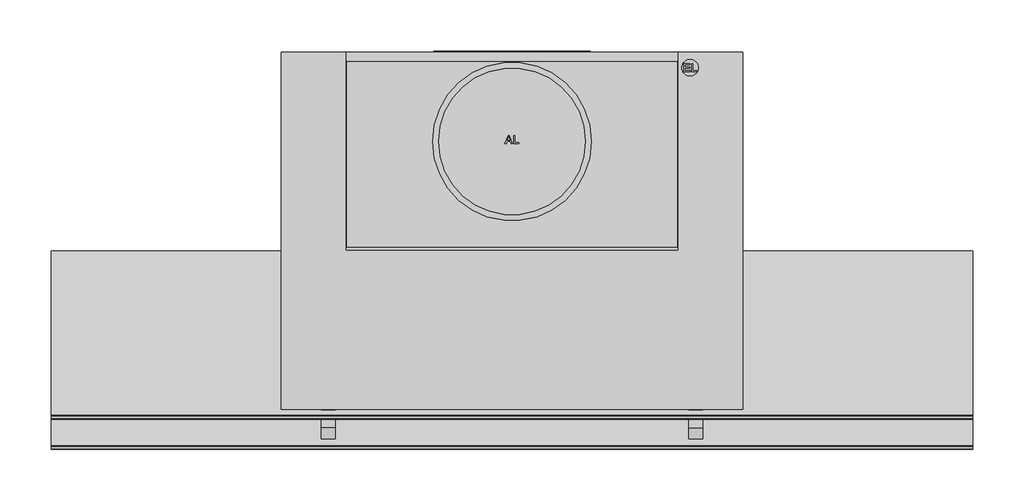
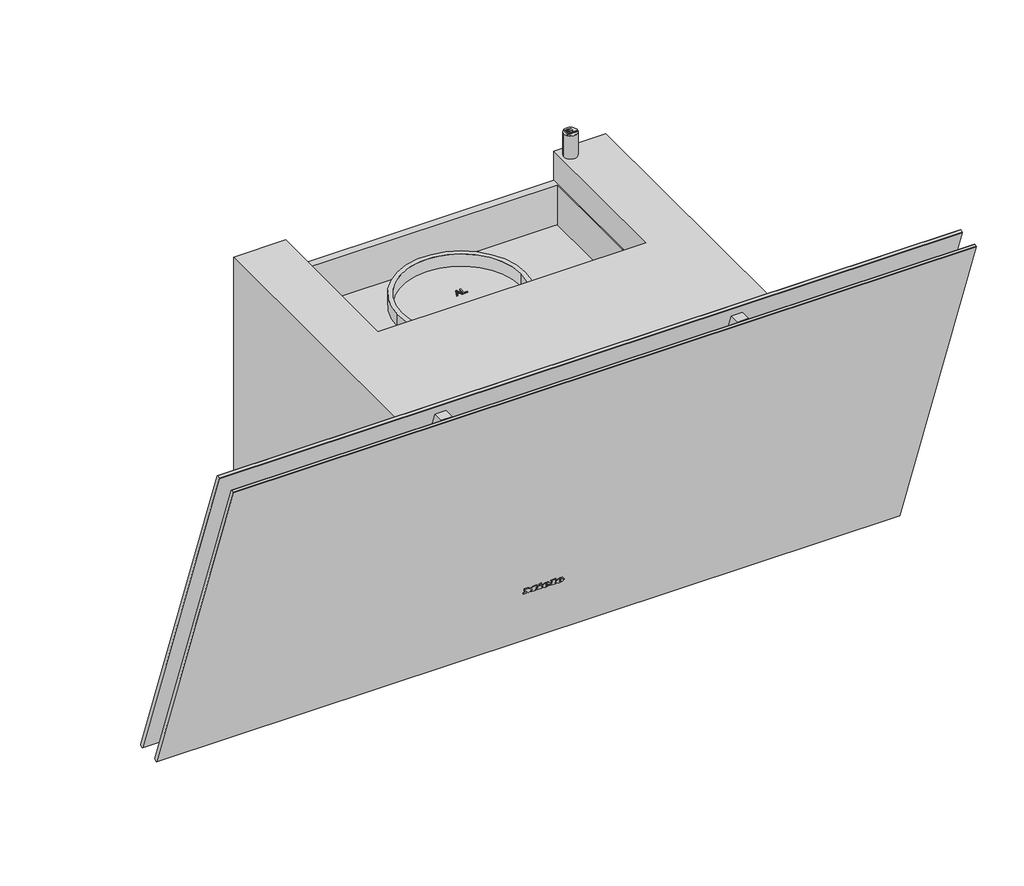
# Not in any storey: 1 proxy.
"""IFC4 building model written with IfcOpenShell, lengths in millimetres."""

import ifcopenshell
import ifcopenshell.guid

model = None  # the IFC model being written
_history = None  # IfcOwnerHistory: only IFC2X3 demands one
_inside = {}  # id of a spatial element -> (the spatial element, [elements in it])
_under = {}  # id of a project, library or spatial element -> (it, [spatial elements below it])
_declared = {}  # id of a project -> (the project, [libraries it declares])
_typed = {}  # id of a type object -> (the type object, [elements of that type])
_made_of = {}  # id of a material, layer set ... -> (it, [elements and type objects made of it])


def new_model(schema):
    """Start an empty IFC model of exactly this schema.

    Asked for "IFC4X3", IfcOpenShell would pick the latest addendum, in which some entities
    have other attributes; the version numbers below select the first issue.
    IFC2X3 requires an IfcOwnerHistory on every rooted entity: one is made here for all.
    """
    global model, _history
    if schema == "IFC4X3":
        model = ifcopenshell.file(schema_version=(4, 3, 0, 0))
    else:
        model = ifcopenshell.file(schema=schema)
    _inside.clear()
    _under.clear()
    _declared.clear()
    _typed.clear()
    _made_of.clear()
    _history = None
    if model.schema == "IFC2X3":
        org = make("IfcOrganization", Name="unknown")
        user = make(
            "IfcPersonAndOrganization",
            ThePerson=make("IfcPerson", FamilyName="unknown"),
            TheOrganization=org,
        )
        app = make(
            "IfcApplication",
            ApplicationDeveloper=org,
            Version="unknown",
            ApplicationFullName="unknown",
            ApplicationIdentifier="unknown",
        )
        _history = make(
            "IfcOwnerHistory",
            OwningUser=user,
            OwningApplication=app,
            ChangeAction="ADDED",
            CreationDate=0,
        )
    return model


def make(cls, **values):
    """One entity of the class cls with the attributes given. An attribute that is None is left unset."""
    return model.create_entity(
        cls, **{name: value for name, value in values.items() if value is not None}
    )


def rooted(cls, **values):
    """An entity with a GlobalId (a new one), such as an element, a storey or a relation."""
    return make(cls, GlobalId=ifcopenshell.guid.new(), OwnerHistory=_history, **values)


def si_unit(unit_type, name, prefix=None):
    """IfcSIUnit, for example si_unit("LENGTHUNIT", "METRE", prefix="MILLI")."""
    return make("IfcSIUnit", UnitType=unit_type, Prefix=prefix, Name=name)


def assignment(units):
    """IfcUnitAssignment: the units of a project."""
    return None if units is None else make("IfcUnitAssignment", Units=units)


def point(xyz):
    """IfcCartesianPoint."""
    return None if xyz is None else make("IfcCartesianPoint", Coordinates=xyz)


def direction(xyz):
    """IfcDirection."""
    return None if xyz is None else make("IfcDirection", DirectionRatios=xyz)


def frame(location, z_axis=None, x_axis=None):
    """IfcAxis2Placement3D, a coordinate frame: its origin and axes. An axis left out is left unset."""
    return make(
        "IfcAxis2Placement3D",
        Location=point(location),
        Axis=direction(z_axis),
        RefDirection=direction(x_axis),
    )


def frame_2d(location, x_axis=None):
    """IfcAxis2Placement2D, a coordinate frame in the plane: its origin and x axis."""
    return make(
        "IfcAxis2Placement2D", Location=point(location), RefDirection=direction(x_axis)
    )


def origin():
    """The frame at (0, 0, 0) with its axes left unset."""
    return frame((0.0, 0.0, 0.0))


def origin_with_axes():
    """The frame at (0, 0, 0) with the z axis (0, 0, 1) and the x axis (1, 0, 0) written out."""
    return frame((0.0, 0.0, 0.0), z_axis=(0.0, 0.0, 1.0), x_axis=(1.0, 0.0, 0.0))


def place(relative_to, where):
    """IfcLocalPlacement: puts the frame where relative to a parent placement (None: the world)."""
    return make(
        "IfcLocalPlacement", PlacementRelTo=relative_to, RelativePlacement=where
    )


def context(
    kind, dimensions, precision=None, world=None, true_north=None, identifier=None
):
    """IfcGeometricRepresentationContext, for example the 3D "Model" context."""
    return make(
        "IfcGeometricRepresentationContext",
        ContextIdentifier=identifier,
        ContextType=kind,
        CoordinateSpaceDimension=dimensions,
        Precision=precision,
        WorldCoordinateSystem=world,
        TrueNorth=true_north,
    )


def project(units=None, contexts=None):
    """IfcProject with its units and contexts."""
    return rooted(
        "IfcProject",
        Name="project",
        RepresentationContexts=contexts,
        UnitsInContext=assignment(units),
    )


def spatial(cls, under=None, at=None, **own):
    """A site, building, storey or space (cls), placed at a placement, below another one or the project."""
    s = rooted(cls, ObjectPlacement=at, **own)
    if under is not None:
        _under.setdefault(under.id(), (under, []))[1].append(s)
    return s


def polyline(points):
    """IfcPolyline through the points."""
    return make("IfcPolyline", Points=[point(p) for p in points])


def circle_curve(where, radius):
    """IfcCircle in the frame where."""
    return make("IfcCircle", Position=where, Radius=radius)


def ellipse_curve(where, semi_axis1, semi_axis2):
    """IfcEllipse in the frame where."""
    return make(
        "IfcEllipse", Position=where, SemiAxis1=semi_axis1, SemiAxis2=semi_axis2
    )


def trimmed(basis, trim1, trim2, sense, master):
    """IfcTrimmedCurve: the piece of a basis curve between two trims."""
    return make(
        "IfcTrimmedCurve",
        BasisCurve=basis,
        Trim1=trim1,
        Trim2=trim2,
        SenseAgreement=sense,
        MasterRepresentation=master,
    )


def segment(curve, same_sense, transition):
    """IfcCompositeCurveSegment."""
    return make(
        "IfcCompositeCurveSegment",
        Transition=transition,
        SameSense=same_sense,
        ParentCurve=curve,
    )


def composite_curve(segments, self_intersect=None):
    """IfcCompositeCurve: segments joined end to end."""
    return make("IfcCompositeCurve", Segments=segments, SelfIntersect=self_intersect)


def outline(outer, holes=None, kind="AREA"):
    """IfcArbitraryClosedProfileDef: a profile drawn as a closed curve; with holes, ...WithVoids."""
    if holes is None:
        return make("IfcArbitraryClosedProfileDef", ProfileType=kind, OuterCurve=outer)
    return make(
        "IfcArbitraryProfileDefWithVoids",
        ProfileType=kind,
        OuterCurve=outer,
        InnerCurves=holes,
    )


def extrude(swept, where, along, depth):
    """IfcExtrudedAreaSolid: the profile swept, set in the frame where, extruded along a direction by depth."""
    return make(
        "IfcExtrudedAreaSolid",
        SweptArea=swept,
        Position=where,
        ExtrudedDirection=direction(along),
        Depth=depth,
    )


def faces_of(points, faces, orient=None, outer=None):
    """IfcFace entities. A face is a list of loops; a loop is a list of indices into points, from 0.

    orient and outer hold one flag for each loop. By default every Orientation is true, the
    first loop of a face is its IfcFaceOuterBound and the others are IfcFaceBound.
    """
    made = []
    for i, loops in enumerate(faces):
        bounds = []
        for j, loop in enumerate(loops):
            is_outer = j == 0 if outer is None else outer[i][j]
            bounds.append(
                make(
                    "IfcFaceOuterBound" if is_outer else "IfcFaceBound",
                    Bound=make("IfcPolyLoop", Polygon=[points[k] for k in loop]),
                    Orientation=True if orient is None else orient[i][j],
                )
            )
        made.append(make("IfcFace", Bounds=bounds))
    return made


def faceted_brep(points, faces, orient=None, outer=None, voids=None):
    """IfcFacetedBrep: a solid bounded by flat faces; with voids (closed shells), ...WithVoids."""
    shared = [point(p) for p in points]
    hull = make("IfcClosedShell", CfsFaces=faces_of(shared, faces, orient, outer))
    if voids is None:
        return make("IfcFacetedBrep", Outer=hull)
    return make(
        "IfcFacetedBrepWithVoids",
        Outer=hull,
        Voids=[
            make(cls, CfsFaces=faces_of(shared, fs, o, b)) for cls, fs, o, b in voids
        ],
    )


def shape(context_of_items, identifier, shape_type, items):
    """IfcShapeRepresentation: the items that make up one representation, for example the "Body"."""
    return make(
        "IfcShapeRepresentation",
        ContextOfItems=context_of_items,
        RepresentationIdentifier=identifier,
        RepresentationType=shape_type,
        Items=items,
    )


def source(mapping_origin, context_of_items, identifier, shape_type, items):
    """IfcRepresentationMap: a shape defined once, which mapped items show again and again."""
    return make(
        "IfcRepresentationMap",
        MappingOrigin=mapping_origin,
        MappedRepresentation=shape(context_of_items, identifier, shape_type, items),
    )


def transform(
    local_origin,
    x_axis=None,
    y_axis=None,
    z_axis=None,
    scale=None,
    scale2=None,
    scale3=None,
    uniform=True,
):
    """IfcCartesianTransformationOperator3D, or its non-uniform kind. x_axis, y_axis, z_axis: its Axis1, 2, 3."""
    if uniform:
        return make(
            "IfcCartesianTransformationOperator3D",
            Axis1=direction(x_axis),
            Axis2=direction(y_axis),
            LocalOrigin=point(local_origin),
            Scale=scale,
            Axis3=direction(z_axis),
        )
    return make(
        "IfcCartesianTransformationOperator3DnonUniform",
        Axis1=direction(x_axis),
        Axis2=direction(y_axis),
        LocalOrigin=point(local_origin),
        Scale=scale,
        Axis3=direction(z_axis),
        Scale2=scale2,
        Scale3=scale3,
    )


def mapped(mapping_source, mapping_target):
    """IfcMappedItem: shows the shape of a source again, moved by a transform."""
    return make(
        "IfcMappedItem", MappingSource=mapping_source, MappingTarget=mapping_target
    )


def made_of(thing, what):
    """Note that an element or type object is made of a material, layer set ...; save() writes the relation."""
    if what is not None:
        _made_of.setdefault(what.id(), (what, []))[1].append(thing)
    return thing


def element(
    cls,
    number,
    at=None,
    inside=None,
    cuts=None,
    type_object=None,
    material=None,
    context=None,
    identifier="Body",
    shape_type=None,
    held_by="IfcProductDefinitionShape",
    body=None,
    shapes=None,
    **own,
):
    """One element of the class cls, such as IfcWall. Its Tag is "e" and its number.

    at: its placement. inside: the storey or other place that contains it. cuts: it is an
    opening in that element (IfcRelVoidsElement). A single representation is given by context,
    identifier, shape_type and body (its items); several are given by shapes. held_by: the class
    of the entity that holds the representations. save() writes the other relations.
    """
    e = rooted(cls, Tag="e%d" % number, ObjectPlacement=at, **own)
    if body is not None:
        shapes = [shape(context, identifier, shape_type, body)]
    if shapes is not None:
        e.Representation = make(held_by, Representations=shapes)
    if inside is not None:
        _inside.setdefault(inside.id(), (inside, []))[1].append(e)
    if cuts is not None:
        rooted(
            "IfcRelVoidsElement", RelatingBuildingElement=cuts, RelatedOpeningElement=e
        )
    if type_object is not None:
        _typed.setdefault(type_object.id(), (type_object, []))[1].append(e)
    return made_of(e, material)


def aggregate(whole, parts):
    """IfcRelAggregates: a whole, such as a stair, and the parts it consists of."""
    return rooted("IfcRelAggregates", RelatingObject=whole, RelatedObjects=parts)


def save(model, path):
    """Write the relations noted so far, then the file.

    IfcRelAggregates (storeys below a building ...), IfcRelContainedInSpatialStructure (elements
    in a storey), IfcRelDefinesByType, IfcRelAssociatesMaterial and IfcRelDeclares: one each for
    every whole, place, type object, material and project.
    """
    for whole, parts in _under.values():
        aggregate(whole, parts)
    for where, things in _inside.values():
        rooted(
            "IfcRelContainedInSpatialStructure",
            RelatedElements=things,
            RelatingStructure=where,
        )
    for kind, things in _typed.values():
        rooted("IfcRelDefinesByType", RelatedObjects=things, RelatingType=kind)
    for what, things in _made_of.values():
        rooted("IfcRelAssociatesMaterial", RelatedObjects=things, RelatingMaterial=what)
    for by, libraries in _declared.values():
        rooted("IfcRelDeclares", RelatingContext=by, RelatedDefinitions=libraries)
    model.write(path)


def plane_surface(at):
    """IfcPlane: the flat surface through the origin of the frame at, square to its z axis."""
    return make("IfcPlane", Position=at)


def cylinder_surface(at, radius):
    """IfcCylindricalSurface: all points at the distance radius from the z axis of the frame at."""
    return make("IfcCylindricalSurface", Position=at, Radius=radius)


def revolved_surface(curve, axis_point, axis_direction):
    """IfcSurfaceOfRevolution: the curve turned about the line through axis_point along axis_direction."""
    return make(
        "IfcSurfaceOfRevolution",
        SweptCurve=make("IfcArbitraryOpenProfileDef", ProfileType="CURVE", Curve=curve),
        AxisPosition=make("IfcAxis1Placement", Location=point(axis_point), Axis=direction(axis_direction)),
    )


def extruded_surface(curve, direction_of_extrusion, depth):
    """IfcSurfaceOfLinearExtrusion: the curve pushed along a direction by depth."""
    return make(
        "IfcSurfaceOfLinearExtrusion",
        SweptCurve=make("IfcArbitraryOpenProfileDef", ProfileType="CURVE", Curve=curve),
        ExtrudedDirection=direction(direction_of_extrusion),
        Depth=depth,
    )


def advanced_brep(points, edges, surfaces, faces):
    """IfcAdvancedBrep: a solid bounded by faces that lie on surfaces and meet in shared edges.

    An edge is (start, end): straight between two places in points (the first is 0);
    or (start, end, curve); or (start, end, curve, False) where it runs against its curve.
    A face is (place in surfaces, loops), or (place, loops, False) where it looks against
    its surface's normal. A loop lists edges by number (the first is 1), with a minus sign
    where the edge is run from its end to its start. The first loop is the outer one.
    """
    corners = [point(p) for p in points]
    vertices = [make("IfcVertexPoint", VertexGeometry=c) for c in corners]
    made = []
    for start, end, *more in edges:
        made.append(
            make(
                "IfcEdgeCurve",
                EdgeStart=vertices[start],
                EdgeEnd=vertices[end],
                EdgeGeometry=more[0] if more else make("IfcPolyline", Points=[corners[start], corners[end]]),
                SameSense=more[1] if len(more) > 1 else True,
            )
        )
    hull = []
    for where, loops, *sense in faces:
        bounds = []
        for j, loop in enumerate(loops):
            ring = [make("IfcOrientedEdge", EdgeElement=made[abs(k) - 1], Orientation=k > 0) for k in loop]
            bounds.append(
                make(
                    "IfcFaceOuterBound" if j == 0 else "IfcFaceBound",
                    Bound=make("IfcEdgeLoop", EdgeList=ring),
                    Orientation=True,
                )
            )
        hull.append(make("IfcAdvancedFace", Bounds=bounds, FaceSurface=surfaces[where], SameSense=sense[0] if sense else True))
    return make("IfcAdvancedBrep", Outer=make("IfcClosedShell", CfsFaces=hull))


def specialty_equipment_7b2512ea(model_context):
    return source(origin(), model_context, "Body", "SolidModel", [
        extrude(outline(polyline([(0.0, 0.0), (0.968, 0.0), (0.968, 5.352), (0.0, 5.352), (0.0, 6.696), (3.52, 6.696), (3.52, 5.352), (2.56, 5.352), (2.56, 1.9488753), (6.136, 6.696), (9.728, 1.8807777), (9.728, 5.352), (8.744, 5.352), (8.744, 6.696), (15.128, 6.696), (15.128, 5.352), (14.112, 5.352), (14.112, 0.0), (15.128, 0.0), (15.128, -1.304), (10.256, -1.304), (7.92, 1.696), (5.576, -1.304), (0.0, -1.304), (0.0, 0.0)])), frame((-24.271984, -261.1380975, 82.2921818), z_axis=(0.0, 0.9396926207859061, 0.34202014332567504), x_axis=(1.0, 0.0, 0.0)), (0.0, 0.0, 1.0), 1.0),
        extrude(outline(polyline([(0.0, 0.0), (0.96, 0.0), (0.96, 5.352), (0.0, 5.352), (0.0, 6.696), (6.488, 6.696), (6.488, 5.352), (5.504, 5.352), (5.504, -1.304), (0.0, -1.304), (0.0, 0.0)])), frame((8.192016, -261.1380975, 82.2921818), z_axis=(0.0, 0.9396926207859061, 0.34202014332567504), x_axis=(1.0, 0.0, 0.0)), (0.0, 0.0, 1.0), 1.0),
        extrude(outline(polyline([(0.0, 0.0), (1.4315306, 0.0), (1.4390414, -2.9920869), (0.0109086, -2.9993294), (0.0, 0.0)])), frame((-6.351984, -261.4226582, 83.074006), z_axis=(0.0, 0.9396926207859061, 0.342020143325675), x_axis=(0.42472021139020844, 0.30963927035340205, -0.8507269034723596)), (0.0, 0.0, 1.0), 1.0),
        extrude(outline(polyline([(0.4933907, 2.4141097), (1.7898156, 3.022309), (2.1941493, 2.1604399), (5.1636141, 3.5535222), (4.7592805, 4.4153913), (5.9760369, 4.9862153), (8.6568708, -0.728194), (7.4401145, -1.299018), (7.0459741, -0.4588767), (2.7800843, -2.4601583), (0.4933907, 2.4141097)])), frame((-6.351984, -261.4226582, 83.074006), z_axis=(0.0, 0.9396926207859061, 0.342020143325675), x_axis=(0.42472021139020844, 0.30963927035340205, -0.8507269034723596)), (0.0, 0.0, 1.0), 1.0),
        advanced_brep(
        [(2.392016, -259.4964008, 77.7816572), (2.392016, -259.7727531, 78.5409288), (7.744016, -259.7727531, 78.5409288), (-1.567984, -259.7727531, 78.5409288), (0.632016, -258.8479306, 76.0), (7.608016, -259.4964008, 77.7816572), (5.192016, -259.4964008, 77.7816572), (3.288016, -259.1899507, 76.9396926), (2.392016, -260.1229817, 79.5031741), (2.392016, -260.4212233, 80.3225861), (3.760016, -260.4212233, 80.3225861), (3.760016, -260.1229817, 79.5031741), (2.392016, -258.5567082, 78.1236774), (3.288016, -258.2502581, 77.2817128), (5.192016, -258.5567082, 78.1236774), (7.608016, -258.5567082, 78.1236774), (0.632016, -257.908238, 76.3420201), (-1.567984, -258.8330604, 78.882949), (7.744016, -258.8330604, 78.882949), (2.392016, -258.8330604, 78.882949), (2.392016, -259.1832891, 79.8451942), (3.760016, -259.1832891, 79.8451942), (3.760016, -259.4815306, 80.6646062), (2.392016, -259.4815306, 80.6646062)],
        [
            (0, 1),
            (1, 2),
            (2, 3, ellipse_curve(frame((3.088016, -259.7727531, 78.5409288), z_axis=(0.0, -0.9396926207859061, -0.34202014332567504), x_axis=(-1.0, 0.0, 0.0)), 4.656, 3.848)),
            (3, 4, circle_curve(frame((1.5280596, -259.8657825, 78.7965252), z_axis=(0.0, -0.9396926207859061, -0.34202014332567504), x_axis=(0.0, 0.34202014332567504, -0.9396926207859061)), 3.1079688)),
            (4, 5, circle_curve(frame((2.9948096, -260.5881291, 80.7811561), z_axis=(0.0, -0.9396926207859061, -0.34202014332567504), x_axis=(0.0, 0.34202014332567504, -0.9396926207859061)), 5.6098607)),
            (5, 6),
            (6, 7, circle_curve(frame((3.6790748, -259.7508638, 78.4807885), z_axis=(0.0, 0.9396926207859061, 0.34202014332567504), x_axis=(0.0, 0.34202014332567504, -0.9396926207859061)), 1.6859795)),
            (7, 0, circle_curve(frame((3.288016, -259.4964008, 77.7816572), z_axis=(0.0, 0.9396926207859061, 0.34202014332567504), x_axis=(0.0, 0.34202014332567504, -0.9396926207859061)), 0.896)),
            (8, 9),
            (9, 10, circle_curve(frame((3.076016, -260.4212233, 80.3225861), z_axis=(0.0, 0.9396926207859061, 0.34202014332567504), x_axis=(0.0, 0.34202014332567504, -0.9396926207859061)), 0.684)),
            (10, 11),
            (11, 8),
            (12, 13, circle_curve(frame((3.288016, -258.5567082, 78.1236774), z_axis=(0.0, -0.9396926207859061, -0.34202014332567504), x_axis=(0.0, 0.34202014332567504, -0.9396926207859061)), 0.896)),
            (13, 14, circle_curve(frame((3.6790748, -258.8111712, 78.8228087), z_axis=(0.0, -0.9396926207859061, -0.34202014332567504), x_axis=(0.0, 0.34202014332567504, -0.9396926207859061)), 1.6859795)),
            (14, 15),
            (15, 16, circle_curve(frame((2.9948096, -259.6484365, 81.1231762), z_axis=(0.0, 0.9396926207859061, 0.34202014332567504), x_axis=(0.0, 0.34202014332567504, -0.9396926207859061)), 5.6098607)),
            (16, 17, circle_curve(frame((1.5280596, -258.9260899, 79.1385454), z_axis=(0.0, 0.9396926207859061, 0.34202014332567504), x_axis=(0.0, 0.34202014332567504, -0.9396926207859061)), 3.1079688)),
            (17, 18, ellipse_curve(frame((3.088016, -258.8330604, 78.882949), z_axis=(0.0, 0.9396926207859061, 0.34202014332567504), x_axis=(-1.0, 0.0, 0.0)), 4.656, 3.848)),
            (18, 19),
            (19, 12),
            (20, 21),
            (21, 22),
            (22, 23, circle_curve(frame((3.076016, -259.4815306, 80.6646062), z_axis=(0.0, -0.9396926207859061, -0.34202014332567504), x_axis=(0.0, 0.34202014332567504, -0.9396926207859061)), 0.684)),
            (23, 20),
            (0, 12),
            (19, 1),
            (18, 2),
            (5, 15),
            (14, 6),
            (17, 3),
            (13, 7),
            (16, 4),
            (8, 20),
            (23, 9),
            (22, 10),
            (21, 11),
        ],
        [
            plane_surface(frame((2.392016, -259.7727531, 78.5409288), z_axis=(0.0, -0.9396926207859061, -0.34202014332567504), x_axis=(0.0, -0.34202014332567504, 0.9396926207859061))),
            plane_surface(frame((2.392016, -258.8330604, 78.882949), z_axis=(0.0, 0.9396926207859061, 0.34202014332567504), x_axis=(0.0, 0.34202014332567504, -0.9396926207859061))),
            plane_surface(frame((2.392016, -259.4964008, 77.7816572), z_axis=(1.0, 0.0, 0.0), x_axis=(0.0, 0.9396926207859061, 0.34202014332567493))),
            plane_surface(frame((2.392016, -259.7727531, 78.5409288), z_axis=(0.0, 0.34202014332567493, -0.9396926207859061), x_axis=(0.0, 0.9396926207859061, 0.34202014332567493))),
            plane_surface(frame((7.608016, -259.4964008, 77.7816572), z_axis=(0.0, -0.34202014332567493, 0.9396926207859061), x_axis=(0.0, 0.9396926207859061, 0.34202014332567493))),
            extruded_surface(trimmed(ellipse_curve(frame((3.088016, -257.8933678, 79.2249691), z_axis=(0.0, -0.9396926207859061, -0.34202014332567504), x_axis=(-1.0, 0.0, 0.0)), 4.656, 3.848), [point((7.744016, -257.8933678, 79.2249691))], [point((-1.567984, -257.8933678, 79.2249691))], True, "CARTESIAN"), (0.0, -0.9396926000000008, -0.34202009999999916), 0.9999999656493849),
            revolved_surface(polyline([(3.6790748, -258.2345321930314, 77.23850622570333), (3.6790748, -259.1742248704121, 76.89648606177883)]), (3.6790748, -258.8111712, 78.8228087), (0.0, 0.9396926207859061, 0.34202014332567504)),
            revolved_surface(polyline([(3.288016, -258.25025810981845, 77.28171282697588), (3.288016, -259.1899507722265, 76.93969266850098)]), (3.288016, -258.5567082, 78.1236774), (0.0, 0.9396926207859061, 0.34202014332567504)),
            cylinder_surface(frame((1.5280596, -258.9260899, 79.1385454), z_axis=(0.0, -0.9396926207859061, -0.34202014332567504), x_axis=(0.0, 0.34202014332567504, -0.9396926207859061)), 3.1079688),
            cylinder_surface(frame((2.9948096, -259.6484365, 81.1231762), z_axis=(0.0, -0.9396926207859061, -0.34202014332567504), x_axis=(0.0, 0.34202014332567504, -0.9396926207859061)), 5.6098607),
            plane_surface(frame((2.392016, -260.1229817, 79.5031741), z_axis=(1.0, 0.0, 0.0), x_axis=(0.0, 0.9396926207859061, 0.34202014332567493))),
            revolved_surface(polyline([(3.076016, -259.2475888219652, 80.02185644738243), (3.076016, -260.1872814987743, 79.67983628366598)]), (3.076016, -259.4815306, 80.6646062), (0.0, 0.9396926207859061, 0.34202014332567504)),
            plane_surface(frame((3.760016, -260.4212233, 80.3225861), z_axis=(-1.0, 0.0, 0.0), x_axis=(0.0, 0.9396926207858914, 0.3420201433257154))),
            plane_surface(frame((3.760016, -260.1229817, 79.5031741), z_axis=(0.0, -0.34202014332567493, 0.9396926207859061), x_axis=(0.0, 0.9396926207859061, 0.34202014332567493))),
        ],
        [
            (0, [[1, 2, 3, 4, 5, 6, 7, 8], [9, 10, 11, 12]]),
            (1, [[13, 14, 15, 16, 17, 18, 19, 20], [21, 22, 23, 24]]),
            (2, [[-1, 25, -20, 26]]),
            (3, [[-2, -26, -19, 27]]),
            (4, [[-6, 28, -15, 29]]),
            (5, [[-3, -27, -18, 30]]),
            (6, [[-7, -29, -14, 31]]),
            (7, [[-8, -31, -13, -25]]),
            (8, [[-4, -30, -17, 32]]),
            (9, [[-5, -32, -16, -28]]),
            (10, [[-9, 33, -24, 34]]),
            (11, [[-10, -34, -23, 35]]),
            (12, [[-11, -35, -22, 36]]),
            (13, [[-12, -36, -21, -33]]),
        ],
    ),
        advanced_brep(
        [(19.088016, -259.4964008, 77.7816572), (19.088016, -259.7727531, 78.5409288), (24.440016, -259.7727531, 78.5409288), (15.128016, -259.7727531, 78.5409288), (17.328016, -258.8479306, 76.0), (24.304016, -259.4964008, 77.7816572), (21.888016, -259.4964008, 77.7816572), (19.984016, -259.1899507, 76.9396926), (19.088016, -260.1229817, 79.5031741), (19.088016, -260.4212233, 80.3225861), (20.456016, -260.4212233, 80.3225861), (20.456016, -260.1229817, 79.5031741), (19.088016, -258.5567082, 78.1236774), (19.984016, -258.2502581, 77.2817128), (21.888016, -258.5567082, 78.1236774), (24.304016, -258.5567082, 78.1236774), (17.328016, -257.908238, 76.3420201), (15.128016, -258.8330604, 78.882949), (24.440016, -258.8330604, 78.882949), (19.088016, -258.8330604, 78.882949), (19.088016, -259.1832891, 79.8451942), (20.456016, -259.1832891, 79.8451942), (20.456016, -259.4815306, 80.6646062), (19.088016, -259.4815306, 80.6646062)],
        [
            (0, 1),
            (1, 2),
            (2, 3, ellipse_curve(frame((19.784016, -259.7727531, 78.5409288), z_axis=(0.0, -0.9396926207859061, -0.34202014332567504), x_axis=(-1.0, 0.0, 0.0)), 4.656, 3.848)),
            (3, 4, circle_curve(frame((18.2240596, -259.8657825, 78.7965252), z_axis=(0.0, -0.9396926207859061, -0.34202014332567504), x_axis=(0.0, 0.34202014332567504, -0.9396926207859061)), 3.1079688)),
            (4, 5, circle_curve(frame((19.6908096, -260.5881291, 80.7811561), z_axis=(0.0, -0.9396926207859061, -0.34202014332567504), x_axis=(0.0, 0.34202014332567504, -0.9396926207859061)), 5.6098607)),
            (5, 6),
            (6, 7, circle_curve(frame((20.3750748, -259.7508638, 78.4807885), z_axis=(0.0, 0.9396926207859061, 0.34202014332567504), x_axis=(0.0, 0.34202014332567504, -0.9396926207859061)), 1.6859795)),
            (7, 0, circle_curve(frame((19.984016, -259.4964008, 77.7816572), z_axis=(0.0, 0.9396926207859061, 0.34202014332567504), x_axis=(0.0, 0.34202014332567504, -0.9396926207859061)), 0.896)),
            (8, 9),
            (9, 10, circle_curve(frame((19.772016, -260.4212233, 80.3225861), z_axis=(0.0, 0.9396926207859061, 0.34202014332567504), x_axis=(0.0, 0.34202014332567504, -0.9396926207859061)), 0.684)),
            (10, 11),
            (11, 8),
            (12, 13, circle_curve(frame((19.984016, -258.5567082, 78.1236774), z_axis=(0.0, -0.9396926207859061, -0.34202014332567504), x_axis=(0.0, 0.34202014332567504, -0.9396926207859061)), 0.896)),
            (13, 14, circle_curve(frame((20.3750748, -258.8111712, 78.8228087), z_axis=(0.0, -0.9396926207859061, -0.34202014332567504), x_axis=(0.0, 0.34202014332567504, -0.9396926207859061)), 1.6859795)),
            (14, 15),
            (15, 16, circle_curve(frame((19.6908096, -259.6484365, 81.1231762), z_axis=(0.0, 0.9396926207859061, 0.34202014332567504), x_axis=(0.0, 0.34202014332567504, -0.9396926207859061)), 5.6098607)),
            (16, 17, circle_curve(frame((18.2240596, -258.9260899, 79.1385454), z_axis=(0.0, 0.9396926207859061, 0.34202014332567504), x_axis=(0.0, 0.34202014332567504, -0.9396926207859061)), 3.1079688)),
            (17, 18, ellipse_curve(frame((19.784016, -258.8330604, 78.882949), z_axis=(0.0, 0.9396926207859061, 0.34202014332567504), x_axis=(-1.0, 0.0, 0.0)), 4.656, 3.848)),
            (18, 19),
            (19, 12),
            (20, 21),
            (21, 22),
            (22, 23, circle_curve(frame((19.772016, -259.4815306, 80.6646062), z_axis=(0.0, -0.9396926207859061, -0.34202014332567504), x_axis=(0.0, 0.34202014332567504, -0.9396926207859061)), 0.684)),
            (23, 20),
            (0, 12),
            (19, 1),
            (18, 2),
            (5, 15),
            (14, 6),
            (17, 3),
            (13, 7),
            (16, 4),
            (8, 20),
            (23, 9),
            (22, 10),
            (21, 11),
        ],
        [
            plane_surface(frame((19.088016, -259.7727531, 78.5409288), z_axis=(0.0, -0.9396926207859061, -0.34202014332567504), x_axis=(0.0, -0.34202014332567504, 0.9396926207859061))),
            plane_surface(frame((19.088016, -258.8330604, 78.882949), z_axis=(0.0, 0.9396926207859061, 0.34202014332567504), x_axis=(0.0, 0.34202014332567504, -0.9396926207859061))),
            plane_surface(frame((19.088016, -259.4964008, 77.7816572), z_axis=(1.0, 0.0, 0.0), x_axis=(0.0, 0.9396926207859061, 0.34202014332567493))),
            plane_surface(frame((19.088016, -259.7727531, 78.5409288), z_axis=(0.0, 0.34202014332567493, -0.9396926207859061), x_axis=(0.0, 0.9396926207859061, 0.34202014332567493))),
            plane_surface(frame((24.304016, -259.4964008, 77.7816572), z_axis=(0.0, -0.34202014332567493, 0.9396926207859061), x_axis=(0.0, 0.9396926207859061, 0.34202014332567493))),
            extruded_surface(trimmed(ellipse_curve(frame((19.784016, -257.8933678, 79.2249691), z_axis=(0.0, -0.9396926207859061, -0.34202014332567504), x_axis=(-1.0, 0.0, 0.0)), 4.656, 3.848), [point((24.440016, -257.8933678, 79.2249691))], [point((15.128016, -257.8933678, 79.2249691))], True, "CARTESIAN"), (0.0, -0.9396926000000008, -0.34202009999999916), 0.9999999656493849),
            revolved_surface(polyline([(20.3750748, -258.2345321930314, 77.23850622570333), (20.3750748, -259.1742248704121, 76.89648606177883)]), (20.3750748, -258.8111712, 78.8228087), (0.0, 0.9396926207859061, 0.34202014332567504)),
            revolved_surface(polyline([(19.984016, -258.25025810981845, 77.28171282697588), (19.984016, -259.1899507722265, 76.93969266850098)]), (19.984016, -258.5567082, 78.1236774), (0.0, 0.9396926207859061, 0.34202014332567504)),
            cylinder_surface(frame((18.2240596, -258.9260899, 79.1385454), z_axis=(0.0, -0.9396926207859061, -0.34202014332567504), x_axis=(0.0, 0.34202014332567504, -0.9396926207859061)), 3.1079688),
            cylinder_surface(frame((19.6908096, -259.6484365, 81.1231762), z_axis=(0.0, -0.9396926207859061, -0.34202014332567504), x_axis=(0.0, 0.34202014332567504, -0.9396926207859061)), 5.6098607),
            plane_surface(frame((19.088016, -260.1229817, 79.5031741), z_axis=(1.0, 0.0, 0.0), x_axis=(0.0, 0.9396926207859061, 0.34202014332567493))),
            revolved_surface(polyline([(19.772016, -259.2475888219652, 80.02185644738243), (19.772016, -260.1872814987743, 79.67983628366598)]), (19.772016, -259.4815306, 80.6646062), (0.0, 0.9396926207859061, 0.34202014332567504)),
            plane_surface(frame((20.456016, -260.4212233, 80.3225861), z_axis=(-1.0, 0.0, 0.0), x_axis=(0.0, 0.9396926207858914, 0.3420201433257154))),
            plane_surface(frame((20.456016, -260.1229817, 79.5031741), z_axis=(0.0, -0.34202014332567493, 0.9396926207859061), x_axis=(0.0, 0.9396926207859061, 0.34202014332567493))),
        ],
        [
            (0, [[1, 2, 3, 4, 5, 6, 7, 8], [9, 10, 11, 12]]),
            (1, [[13, 14, 15, 16, 17, 18, 19, 20], [21, 22, 23, 24]]),
            (2, [[-1, 25, -20, 26]]),
            (3, [[-2, -26, -19, 27]]),
            (4, [[-6, 28, -15, 29]]),
            (5, [[-3, -27, -18, 30]]),
            (6, [[-7, -29, -14, 31]]),
            (7, [[-8, -31, -13, -25]]),
            (8, [[-4, -30, -17, 32]]),
            (9, [[-5, -32, -16, -28]]),
            (10, [[-9, 33, -24, 34]]),
            (11, [[-10, -34, -23, 35]]),
            (12, [[-11, -35, -22, 36]]),
            (13, [[-12, -36, -21, -33]]),
        ],
    ),
        advanced_brep(
        [(-198.5, -231.2422284, 80.5173231), (-198.5, -240.9843308, 107.2835295), (-198.5, -235.8312261, 109.4708926), (-198.5, -225.8887113, 82.1540576), (-198.5, -250.514978, 76.8365225), (-198.5, -258.1140866, 97.7149017), (-198.5, -258.4754112, 96.7430581), (-198.5, -251.4164577, 77.3487429), (-198.5, -254.9459345, 87.0459005), (-198.5, -230.9198317, 95.7906867)],
        [
            (0, 1, circle_curve(frame((-198.5, -236.1132796, 93.9004263), z_axis=(0.0, 0.9396926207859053, 0.3420201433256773), x_axis=(0.0, -0.3420201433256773, 0.9396926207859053)), 14.2420009)),
            (1, 2),
            (2, 3, circle_curve(frame((-198.5, -230.8599687, 95.8124751), z_axis=(0.0, -0.9396926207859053, -0.3420201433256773), x_axis=(0.0, -0.3420201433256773, 0.9396926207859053)), 14.5349844)),
            (3, 0),
            (4, 5, circle_curve(frame((-198.5, -254.3145323, 87.2757121), z_axis=(0.0, 0.9396926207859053, 0.3420201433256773), x_axis=(0.0, -0.3420201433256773, 0.9396926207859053)), 11.1091535)),
            (5, 1),
            (0, 4),
            (6, 7, circle_curve(frame((-198.5, -254.9459345, 87.0459005), z_axis=(0.0, 0.9396926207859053, 0.3420201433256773), x_axis=(0.0, -0.3420201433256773, 0.9396926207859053)), 10.3194996)),
            (7, 4),
            (4, 5, circle_curve(frame((-198.5, -254.3145323, 87.2757121), z_axis=(0.0, -0.9396926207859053, -0.3420201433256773), x_axis=(0.0, -0.3420201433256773, 0.9396926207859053)), 11.1091535)),
            (5, 6),
            (8, 7),
            (6, 8),
            (2, 9),
            (9, 3),
            (2, 3, circle_curve(frame((-198.5, -230.9198317, 95.7906867), z_axis=(0.0, 0.9396926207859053, 0.3420201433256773), x_axis=(0.0, -0.3420201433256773, 0.9396926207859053)), 14.535124)),
            (1, 0, circle_curve(frame((-198.5, -236.1132796, 93.9004263), z_axis=(0.0, 0.9396926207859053, 0.3420201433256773), x_axis=(0.0, -0.3420201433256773, 0.9396926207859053)), 14.2420009)),
            (7, 6, circle_curve(frame((-198.5, -254.9459345, 87.0459005), z_axis=(0.0, 0.9396926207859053, 0.3420201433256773), x_axis=(0.0, -0.3420201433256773, 0.9396926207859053)), 10.3194996)),
        ],
        [
            revolved_surface(polyline([(-198.5, -235.8312261, 109.4708926), (-198.5, -240.9843308, 107.2835295)]), (-198.5, -255.2773841, 86.9252627), (0.0, -0.9396926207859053, -0.3420201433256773)),
            revolved_surface(polyline([(-198.5, -240.9843308, 107.2835295), (-198.5, -258.1140866, 97.7149017)]), (-198.5, -255.2773841, 86.9252627), (0.0, -0.9396926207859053, -0.3420201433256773)),
            revolved_surface(polyline([(-198.5, -258.1140866, 97.7149017), (-198.5, -258.4754112, 96.7430581)]), (-198.5, -255.2773841, 86.9252627), (0.0, -0.9396926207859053, -0.3420201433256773)),
            plane_surface(frame((-198.5, -254.9459345, 87.0459005), z_axis=(0.0, -0.9396926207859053, -0.3420201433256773), x_axis=(0.0, -0.3420201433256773, 0.9396926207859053))),
            plane_surface(frame((-198.5, -230.9198317, 95.7906867), z_axis=(0.0, 0.9396926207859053, 0.3420201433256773), x_axis=(0.0, -0.3420201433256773, 0.9396926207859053))),
        ],
        [
            (0, [[1, 2, 3, 4]]),
            (1, [[5, 6, -1, 7]]),
            (2, [[8, 9, 10, 11]]),
            (3, [[12, -8, 13]]),
            (4, [[-3, 14, 15]]),
            (4, [[16, -15, -14]]),
            (0, [[17, -4, -16, -2]]),
            (1, [[-10, -7, -17, -6]]),
            (2, [[18, -11, -5, -9]]),
            (3, [[-13, -18, -12]]),
        ],
    ),
        advanced_brep(
        [(-198.5, -262.8067778, 105.2732379), (-198.5, -249.4001153, 68.4387353), (-198.5, -252.3199878, 80.8696014), (-198.5, -257.0531232, 93.8737841), (-198.5, -250.699917, 68.232867), (-198.5, -263.9348133, 104.5954458), (-198.5, -257.3173652, 86.4141564), (-198.5, -254.6865555, 87.3716928)],
        [
            (0, 1, circle_curve(frame((-198.5, -256.1034466, 86.8559866), z_axis=(0.0, 0.9396926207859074, 0.34202014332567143), x_axis=(0.0, -0.34202014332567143, 0.9396926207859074)), 19.5992294)),
            (1, 2),
            (2, 3, circle_curve(frame((-198.5, -254.6865555, 87.3716928), z_axis=(0.0, -0.9396926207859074, -0.34202014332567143), x_axis=(0.0, -0.34202014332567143, 0.9396926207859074)), 6.9193811)),
            (3, 0),
            (1, 0, circle_curve(frame((-198.5, -256.1034466, 86.8559866), z_axis=(0.0, 0.9396926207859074, 0.34202014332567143), x_axis=(0.0, -0.34202014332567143, 0.9396926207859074)), 19.5992294)),
            (3, 2, circle_curve(frame((-198.5, -254.6865555, 87.3716928), z_axis=(0.0, -0.9396926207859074, -0.34202014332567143), x_axis=(0.0, -0.34202014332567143, 0.9396926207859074)), 6.9193811)),
            (4, 5, circle_curve(frame((-198.5, -257.3173652, 86.4141564), z_axis=(0.0, 0.9396926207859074, 0.34202014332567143), x_axis=(0.0, -0.34202014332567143, 0.9396926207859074)), 19.3481241)),
            (5, 0),
            (1, 4),
            (5, 4, circle_curve(frame((-198.5, -257.3173652, 86.4141564), z_axis=(0.0, 0.9396926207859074, 0.34202014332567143), x_axis=(0.0, -0.34202014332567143, 0.9396926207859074)), 19.3481241)),
            (6, 5),
            (4, 6),
            (3, 7),
            (7, 2),
        ],
        [
            revolved_surface(polyline([(-198.5, -257.0531232, 93.8737841), (-198.5, -262.8067778, 105.2732379)]), (-198.5, -254.6865555, 87.3716928), (0.0, -0.9396926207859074, -0.34202014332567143)),
            revolved_surface(polyline([(-198.5, -262.8067778, 105.2732379), (-198.5, -263.9348133, 104.5954458)]), (-198.5, -254.6865555, 87.3716928), (0.0, -0.9396926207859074, -0.34202014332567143)),
            plane_surface(frame((-198.5, -257.3173652, 86.4141564), z_axis=(0.0, -0.9396926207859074, -0.34202014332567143), x_axis=(0.0, -0.34202014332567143, 0.9396926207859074))),
            plane_surface(frame((-198.5, -254.6865555, 87.3716928), z_axis=(0.0, 0.9396926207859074, 0.34202014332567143), x_axis=(0.0, -0.34202014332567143, 0.9396926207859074))),
        ],
        [
            (0, [[1, 2, 3, 4]]),
            (0, [[5, -4, 6, -2]]),
            (1, [[7, 8, -5, 9]]),
            (1, [[10, -9, -1, -8]]),
            (2, [[11, -7, 12]]),
            (2, [[-12, -10, -11]]),
            (3, [[-6, 13, 14]]),
            (3, [[-3, -14, -13]]),
        ],
    ),
        advanced_brep(
        [(198.5, -225.9091808, 82.1477994), (198.5, -235.8509293, 109.4625291), (198.5, -240.9843308, 107.2835295), (198.5, -231.2422284, 80.5173231), (198.5, -258.1140866, 97.7149017), (198.5, -250.514978, 76.8365225), (198.5, -230.9018417, 95.8650227), (198.5, -258.4754112, 96.7430581), (198.5, -251.4164577, 77.3487429), (198.5, -254.9459345, 87.0459005)],
        [
            (0, 1, circle_curve(frame((198.5, -230.8800551, 95.8051643), z_axis=(0.0, -0.9396926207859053, -0.3420201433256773), x_axis=(0.0, -0.3420201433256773, 0.9396926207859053)), 14.5338641)),
            (1, 2),
            (2, 3, circle_curve(frame((198.5, -236.1132796, 93.9004263), z_axis=(0.0, 0.9396926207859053, 0.3420201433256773), x_axis=(0.0, -0.3420201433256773, 0.9396926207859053)), 14.2420009)),
            (3, 0),
            (2, 4),
            (4, 5, circle_curve(frame((198.5, -254.3145323, 87.2757121), z_axis=(0.0, 0.9396926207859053, 0.3420201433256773), x_axis=(0.0, -0.3420201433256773, 0.9396926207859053)), 11.1091535)),
            (5, 3),
            (6, 1),
            (0, 6),
            (0, 1, circle_curve(frame((198.5, -230.8800551, 95.8051643), z_axis=(0.0, 0.9396926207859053, 0.3420201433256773), x_axis=(0.0, -0.3420201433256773, 0.9396926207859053)), 14.5338641)),
            (3, 2, circle_curve(frame((198.5, -236.1132796, 93.9004263), z_axis=(0.0, 0.9396926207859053, 0.3420201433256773), x_axis=(0.0, -0.3420201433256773, 0.9396926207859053)), 14.2420009)),
            (5, 4, circle_curve(frame((198.5, -254.3145323, 87.2757121), z_axis=(0.0, 0.9396926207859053, 0.3420201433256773), x_axis=(0.0, -0.3420201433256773, 0.9396926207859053)), 11.1091535)),
            (4, 7),
            (7, 8, circle_curve(frame((198.5, -254.9459345, 87.0459005), z_axis=(0.0, 0.9396926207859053, 0.3420201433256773), x_axis=(0.0, -0.3420201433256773, 0.9396926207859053)), 10.3194996)),
            (8, 5),
            (8, 7, circle_curve(frame((198.5, -254.9459345, 87.0459005), z_axis=(0.0, 0.9396926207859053, 0.3420201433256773), x_axis=(0.0, -0.3420201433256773, 0.9396926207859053)), 10.3194996)),
            (7, 9),
            (9, 8),
        ],
        [
            revolved_surface(polyline([(198.5, -240.9843308, 107.2835295), (198.5, -235.8509293, 109.4625291)]), (198.5, -255.2773841, 86.9252627), (0.0, 0.9396926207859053, 0.3420201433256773)),
            revolved_surface(polyline([(198.5, -258.1140866, 97.7149017), (198.5, -240.9843308, 107.2835295)]), (198.5, -255.2773841, 86.9252627), (0.0, 0.9396926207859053, 0.3420201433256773)),
            plane_surface(frame((198.5, -230.8800551, 95.8051643), z_axis=(0.0, 0.9396926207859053, 0.3420201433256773), x_axis=(0.0, -0.3420201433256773, 0.9396926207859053))),
            revolved_surface(polyline([(198.5, -258.4754112, 96.7430581), (198.5, -258.1140866, 97.7149017)]), (198.5, -255.2773841, 86.9252627), (0.0, 0.9396926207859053, 0.3420201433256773)),
            plane_surface(frame((198.5, -254.9459345, 87.0459005), z_axis=(0.0, -0.9396926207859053, -0.3420201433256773), x_axis=(0.0, -0.3420201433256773, 0.9396926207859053))),
        ],
        [
            (0, [[1, 2, 3, 4]]),
            (1, [[-3, 5, 6, 7]]),
            (2, [[8, -1, 9]]),
            (2, [[-9, 10, -8]]),
            (0, [[-10, -4, 11, -2]]),
            (1, [[-11, -7, 12, -5]]),
            (3, [[-6, 13, 14, 15]]),
            (3, [[-12, -15, 16, -13]]),
            (4, [[-14, 17, 18]]),
            (4, [[-16, -18, -17]]),
        ],
    ),
        advanced_brep(
        [(198.5, -252.3199878, 80.8696014), (198.5, -257.0531232, 93.8737841), (198.5, -262.8067778, 105.2732379), (198.5, -249.4001153, 68.4387353), (198.5, -263.9348133, 104.5954458), (198.5, -250.699917, 68.232867), (198.5, -257.3173652, 86.4141564), (198.5, -254.6865555, 87.3716928)],
        [
            (0, 1, circle_curve(frame((198.5, -254.6865555, 87.3716928), z_axis=(0.0, -0.9396926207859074, -0.34202014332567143), x_axis=(0.0, -0.34202014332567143, 0.9396926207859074)), 6.9193811)),
            (1, 2),
            (2, 3, circle_curve(frame((198.5, -256.1034466, 86.8559866), z_axis=(0.0, 0.9396926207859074, 0.34202014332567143), x_axis=(0.0, -0.34202014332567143, 0.9396926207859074)), 19.5992294)),
            (3, 0),
            (1, 0, circle_curve(frame((198.5, -254.6865555, 87.3716928), z_axis=(0.0, -0.9396926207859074, -0.34202014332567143), x_axis=(0.0, -0.34202014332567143, 0.9396926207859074)), 6.9193811)),
            (3, 2, circle_curve(frame((198.5, -256.1034466, 86.8559866), z_axis=(0.0, 0.9396926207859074, 0.34202014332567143), x_axis=(0.0, -0.34202014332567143, 0.9396926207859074)), 19.5992294)),
            (2, 4),
            (4, 5, circle_curve(frame((198.5, -257.3173652, 86.4141564), z_axis=(0.0, 0.9396926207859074, 0.34202014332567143), x_axis=(0.0, -0.34202014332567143, 0.9396926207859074)), 19.3481241)),
            (5, 3),
            (5, 4, circle_curve(frame((198.5, -257.3173652, 86.4141564), z_axis=(0.0, 0.9396926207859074, 0.34202014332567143), x_axis=(0.0, -0.34202014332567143, 0.9396926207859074)), 19.3481241)),
            (4, 6),
            (6, 5),
            (7, 1),
            (0, 7),
        ],
        [
            revolved_surface(polyline([(198.5, -262.8067778, 105.2732379), (198.5, -257.0531232, 93.8737841)]), (198.5, -254.6865555, 87.3716928), (0.0, 0.9396926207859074, 0.34202014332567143)),
            revolved_surface(polyline([(198.5, -263.9348133, 104.5954458), (198.5, -262.8067778, 105.2732379)]), (198.5, -254.6865555, 87.3716928), (0.0, 0.9396926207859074, 0.34202014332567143)),
            plane_surface(frame((198.5, -257.3173652, 86.4141564), z_axis=(0.0, -0.9396926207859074, -0.34202014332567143), x_axis=(0.0, -0.34202014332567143, 0.9396926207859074))),
            plane_surface(frame((198.5, -254.6865555, 87.3716928), z_axis=(0.0, 0.9396926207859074, 0.34202014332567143), x_axis=(0.0, -0.34202014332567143, 0.9396926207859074))),
        ],
        [
            (0, [[1, 2, 3, 4]]),
            (0, [[5, -4, 6, -2]]),
            (1, [[-3, 7, 8, 9]]),
            (1, [[-6, -9, 10, -7]]),
            (2, [[-8, 11, 12]]),
            (2, [[-10, -12, -11]]),
            (3, [[13, -1, 14]]),
            (3, [[-14, -5, -13]]),
        ],
    ),
        extrude(outline(polyline([(-377.2541471, 415.9959153), (-366.2530147, 420.0), (-348.8949883, 420.0), (-315.0686278, 327.0628384), (-321.2276447, 324.8211395), (-334.9582954, 325.4920509), (-347.6637142, 334.6968691), (-377.2541471, 415.9959153)])), frame((-185.7167767, 0.0, 0.0), z_axis=(1.0, 0.0, 0.0), x_axis=(0.0, 1.0, 0.0)), (0.0, 0.0, 1.0), 13.4088513),
        extrude(outline(polyline([(-377.2541471, 415.9959153), (-366.2530147, 420.0), (-348.8949883, 420.0), (-315.0686278, 327.0628384), (-321.2276447, 324.8211395), (-334.9582954, 325.4920509), (-347.6637142, 334.6968691), (-377.2541471, 415.9959153)])), frame((172.3079253, 0.0, 0.0), z_axis=(1.0, 0.0, 0.0), x_axis=(0.0, 1.0, 0.0)), (0.0, 0.0, 1.0), 13.4088513),
        extrude(outline(polyline([(-387.1323401, 432.8365045), (-384.310791, 433.8634644), (-383.5944926, 433.4158714), (-223.2772642, -7.0520936), (-223.5613092, -7.7920563), (-226.3696341, -8.8142029), (-227.0596169, -8.4158411), (-387.3899893, 432.0882368), (-387.1323401, 432.8365045)])), frame((-449.0, 0.0, 0.0), z_axis=(1.0, 0.0, 0.0), x_axis=(0.0, 1.0, 0.0)), (0.0, 0.0, 1.0), 898.0),
        extrude(outline(polyline([(-357.7500767, 432.8365045), (-354.6517562, 433.9642009), (-353.7790899, 433.4190033), (-193.5484199, -6.8114741), (-193.8719465, -7.7304916), (-196.9340313, -8.8449984), (-197.6773535, -8.4158411), (-358.007726, 432.0882368), (-357.7500767, 432.8365045)])), frame((-449.0, 0.0, 0.0), z_axis=(1.0, 0.0, 0.0), x_axis=(0.0, 1.0, 0.0)), (0.0, 0.0, 1.0), 898.0),
        extrude(outline(polyline([(-287.1198024, 229.753659), (-287.6205942, 218.2841221), (-296.0848836, 210.5280081), (-301.7042998, 208.4827078), (-327.3688694, 278.9955333), (-319.9071972, 281.7113599), (-309.7792372, 280.1072486), (-302.5107089, 272.039827), (-287.1198024, 229.753659)])), frame((182.9499624, 0.0, 0.0), z_axis=(1.0, 0.0, 0.0), x_axis=(0.0, 1.0, 0.0)), (0.0, 0.0, 1.0), 3.1163744),
        extrude(outline(composite_curve([segment(trimmed(circle_curve(frame_2d((0.0, -6.0)), 6.0), [point((0.0, -12.0))], [point((0.0, 0.0))], False, "CARTESIAN"), True, "CONTINUOUS"), segment(trimmed(circle_curve(frame_2d((0.0, -6.0)), 6.0), [point((0.0, 0.0))], [point((0.0, -12.0))], False, "CARTESIAN"), True, "CONTINUOUS")], self_intersect=False)), frame((198.4796168, -304.9287055, 251.8746642), z_axis=(0.0, -0.3420201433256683, 0.9396926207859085), x_axis=(0.0, -0.9396926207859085, -0.3420201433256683)), (0.0, 0.0, 1.0), 126.121517),
        faceted_brep([(225.0000193, -349.0, 420.0), (225.0000193, -196.2332597, 0.0), (225.0000193, 0.0, 0.0), (225.0000193, 0.0, 420.0), (-225.0000193, -349.0, 420.0), (-225.0000193, 0.0, 420.0), (-225.0000193, 0.0, 0.0), (-225.0000193, -196.2332597, 0.0), (176.5, -48.0, 0.0), (-176.5, -48.0, 0.0), (-176.5, -181.0, 0.0), (176.5, -181.0, 0.0), (125.0, -12.0, 0.0), (-125.0, -12.0, 0.0), (-125.0, -38.0, 0.0), (125.0, -38.0, 0.0), (-162.2229137, 0.0, 420.0), (-162.2229137, 0.0, 382.5), (162.2229137, 0.0, 382.5), (162.2229137, 0.0, 420.0), (-160.9556997, -9.0, 332.0), (160.9556997, -9.0, 332.0), (160.9556997, -9.0, 382.5), (-160.9556997, -9.0, 382.5), (-160.9556997, -190.0399284, 332.0), (-160.9556997, -190.0399284, 382.5), (160.9556997, -190.0399284, 332.0), (160.9556997, -190.0399284, 382.5), (176.5, -48.0, 11.0), (-176.5, -48.0, 11.0), (125.0, -12.0, 11.0), (-125.0, -12.0, 11.0), (162.2229137, -193.2332597, 420.0), (-162.2229137, -193.2332597, 420.0), (176.5, -181.0, 11.0), (-176.5, -181.0, 11.0), (125.0, -38.0, 11.0), (-125.0, -38.0, 11.0), (162.2229137, -193.2332597, 382.5), (-162.2229137, -193.2332597, 382.5)], [[[0, 1, 2, 3]], [[4, 5, 6, 7]], [[1, 0, 4, 7]], [[2, 1, 7, 6], [8, 9, 10, 11], [12, 13, 14, 15]], [[3, 2, 6, 5, 16, 17, 18, 19]], [[20, 21, 22, 23]], [[24, 20, 23, 25]], [[21, 26, 27, 22]], [[28, 29, 9, 8]], [[30, 31, 13, 12]], [[0, 3, 19, 32, 33, 16, 5, 4]], [[21, 20, 24, 26]], [[26, 24, 25, 27]], [[28, 34, 35, 29]], [[29, 35, 10, 9]], [[35, 34, 11, 10]], [[34, 28, 8, 11]], [[30, 36, 37, 31]], [[31, 37, 14, 13]], [[37, 36, 15, 14]], [[36, 30, 12, 15]], [[32, 38, 39, 33]], [[39, 38, 18, 17], [23, 22, 27, 25]], [[38, 32, 19, 18]], [[33, 39, 17, 16]]]),
        extrude(outline(polyline([(125.0, -12.0), (125.0, -38.0), (-125.0, -38.0), (-125.0, -12.0), (125.0, -12.0)]), holes=[polyline([(-119.0, -31.2), (119.0, -31.2), (119.0, -18.8), (-119.0, -18.8), (-119.0, -31.2)])]), origin_with_axes(), (0.0, 0.0, 1.0), 11.0),
        extrude(outline(polyline([(119.0, -18.8), (119.0, -31.2), (-119.0, -31.2), (-119.0, -18.8), (119.0, -18.8)])), origin_with_axes(), (0.0, 0.0, 1.0), 11.0),
        extrude(outline(polyline([(176.5, -48.0), (176.5, -181.0), (-176.5, -181.0), (-176.5, -48.0), (176.5, -48.0)]), holes=[polyline([(167.5, -57.0), (-167.5, -57.0), (-167.5, -172.0), (167.5, -172.0), (167.5, -57.0)])]), origin_with_axes(), (0.0, 0.0, 1.0), 11.0),
        extrude(outline(polyline([(167.5, -57.0), (167.5, -172.0), (-167.5, -172.0), (-167.5, -57.0), (167.5, -57.0)])), frame((0.0, 0.0, 1.0), z_axis=(0.0, 0.0, 1.0), x_axis=(1.0, 0.0, 0.0)), (0.0, 0.0, 1.0), 10.0),
        extrude(outline(polyline([(-167.5, -98.0), (-124.5000193, -98.0), (-124.5000193, -131.0), (-167.5, -131.0), (-167.5, -98.0)]), holes=[polyline([(-131.0000193, -104.5), (-160.0000193, -104.5), (-160.0000193, -124.5), (-131.0000193, -124.5), (-131.0000193, -104.5)])]), origin_with_axes(), (0.0, 0.0, 1.0), 1.0),
        extrude(outline(polyline([(-131.0000193, -104.5), (-131.0000193, -124.5), (-140.0000193, -124.5), (-140.0000193, -104.5), (-131.0000193, -104.5)])), origin_with_axes(), (0.0, 0.0, 1.0), 1.0),
        extrude(outline(composite_curve([segment(trimmed(circle_curve(frame_2d((0.0, -86.9971466)), 77.2963157), [point((-77.2963157, -86.9971466))], [point((77.2963157, -86.9971466))], False, "CARTESIAN"), True, "CONTINUOUS"), segment(trimmed(circle_curve(frame_2d((0.0, -86.9971466)), 77.2963157), [point((77.2963157, -86.9971466))], [point((-77.2963157, -86.9971466))], False, "CARTESIAN"), True, "CONTINUOUS")], self_intersect=False), holes=[composite_curve([segment(trimmed(circle_curve(frame_2d((0.0, -86.9971466)), 71.617422), [point((-71.617422, -86.9971466))], [point((71.617422, -86.9971466))], True, "CARTESIAN"), True, "CONTINUOUS"), segment(trimmed(circle_curve(frame_2d((0.0, -86.9971466)), 71.617422), [point((71.617422, -86.9971466))], [point((-71.617422, -86.9971466))], True, "CARTESIAN"), True, "CONTINUOUS")], self_intersect=False)]), frame((0.0, 0.0, 332.0), z_axis=(0.0, 0.0, 1.0), x_axis=(1.0, 0.0, 0.0)), (0.0, 0.0, 1.0), 15.9326282),
        extrude(outline(polyline([(-6.8377, -89.2416424), (-3.629769, -81.2051375), (-2.7743208, -81.2051375), (0.4336102, -89.2416424), (-0.6278519, -89.2416424), (-1.5480474, -86.7302346), (-4.8580044, -86.7302346), (-5.7762378, -89.2416424), (-6.8377, -89.2416424)]), holes=[polyline([(-4.4891414, -85.7256715), (-1.9149484, -85.7256715), (-2.6389402, -83.7498999), (-3.2020449, -82.2097006), (-3.7023644, -83.5772407), (-4.4891414, -85.7256715)])]), frame((0.0, 0.0, 347.9326282), z_axis=(0.0, 0.0, 1.0), x_axis=(1.0, 0.0, 0.0)), (0.0, 0.0, 1.0), 1.0),
        extrude(outline(polyline([(1.5068447, -89.2416424), (1.5068447, -81.2051375), (2.5114078, -81.2051375), (2.5114078, -88.2370793), (6.5296602, -88.2370793), (6.5296602, -89.2416424), (1.5068447, -89.2416424)])), frame((0.0, 0.0, 347.9326282), z_axis=(0.0, 0.0, 1.0), x_axis=(1.0, 0.0, 0.0)), (0.0, 0.0, 1.0), 1.0),
        extrude(outline(composite_curve([segment(trimmed(circle_curve(frame_2d((192.5519409, 0.0)), 76.1990432), [point((192.5519409, -76.1990432))], [point((192.5519409, 76.1990432))], False, "CARTESIAN"), True, "CONTINUOUS"), segment(trimmed(circle_curve(frame_2d((192.5519409, 0.0)), 76.1990432), [point((192.5519409, 76.1990432))], [point((192.5519409, -76.1990432))], False, "CARTESIAN"), True, "CONTINUOUS")], self_intersect=False)), frame((0.0, 0.0, 0.0), z_axis=(0.0, 1.0, 0.0), x_axis=(0.0, 0.0, 1.0)), (0.0, 0.0, 1.0), 1.0),
        extrude(outline(composite_curve([segment(trimmed(circle_curve(frame_2d((173.4999807, -15.0000005)), 8.0), [point((165.4999807, -15.0000005))], [point((181.4999807, -15.0000005))], False, "CARTESIAN"), True, "CONTINUOUS"), segment(trimmed(circle_curve(frame_2d((173.4999807, -15.0000005)), 8.0), [point((181.4999807, -15.0000005))], [point((165.4999807, -15.0000005))], False, "CARTESIAN"), True, "CONTINUOUS")], self_intersect=False)), frame((0.0, 0.0, 420.0), z_axis=(0.0, 0.0, 1.0), x_axis=(1.0, 0.0, 0.0)), (0.0, 0.0, 1.0), 30.0),
        extrude(outline(polyline([(167.5981725, -19.0000005), (167.5981725, -10.9634957), (173.3744104, -10.9634957), (173.3744104, -11.9680588), (168.6027356, -11.9680588), (168.6027356, -14.3538961), (173.1232696, -14.3538961), (173.1232696, -15.3584592), (168.6027356, -15.3584592), (168.6027356, -17.9954374), (173.4999807, -17.9954374), (173.4999807, -19.0000005), (167.5981725, -19.0000005)])), frame((0.0, 0.0, 450.0), z_axis=(0.0, 0.0, 1.0), x_axis=(1.0, 0.0, 0.0)), (0.0, 0.0, 1.0), 1.0),
        extrude(outline(polyline([(175.0068254, -19.0000005), (175.0068254, -10.9634957), (176.0113885, -10.9634957), (176.0113885, -17.9954374), (180.0296409, -17.9954374), (180.0296409, -19.0000005), (175.0068254, -19.0000005)])), frame((0.0, 0.0, 450.0), z_axis=(0.0, 0.0, 1.0), x_axis=(1.0, 0.0, 0.0)), (0.0, 0.0, 1.0), 1.0),
    ])


model = new_model("IFC4")

# Units and contexts
model_context = context("Model", 3, world=origin())
ifc_project = project(units=[si_unit("LENGTHUNIT", "METRE", prefix="MILLI")], contexts=[model_context])

# Site, building
site = spatial("IfcSite", under=ifc_project)
building = spatial("IfcBuilding", under=site)

# Proxy
placement = place(None, origin())
specialty_equipment_shape = specialty_equipment_7b2512ea(model_context)
element("IfcBuildingElementProxy", 1, Name="12534200_CH_DAH2960_OBSW : 28H2960B_CH_12534200_DAH2960_OBSW", ObjectType="12534200_CH_DAH2960_OBSW : 28H2960B_CH_12534200_DAH2960_OBSW", at=placement, inside=building, context=model_context, shape_type="MappedRepresentation", body=[
    mapped(specialty_equipment_shape, transform((0.0, 0.0, 0.0), x_axis=(1.0, 0.0, 0.0), y_axis=(0.0, 1.0, 0.0), z_axis=(0.0, 0.0, 1.0))),
])

save(model, "model.ifc")
